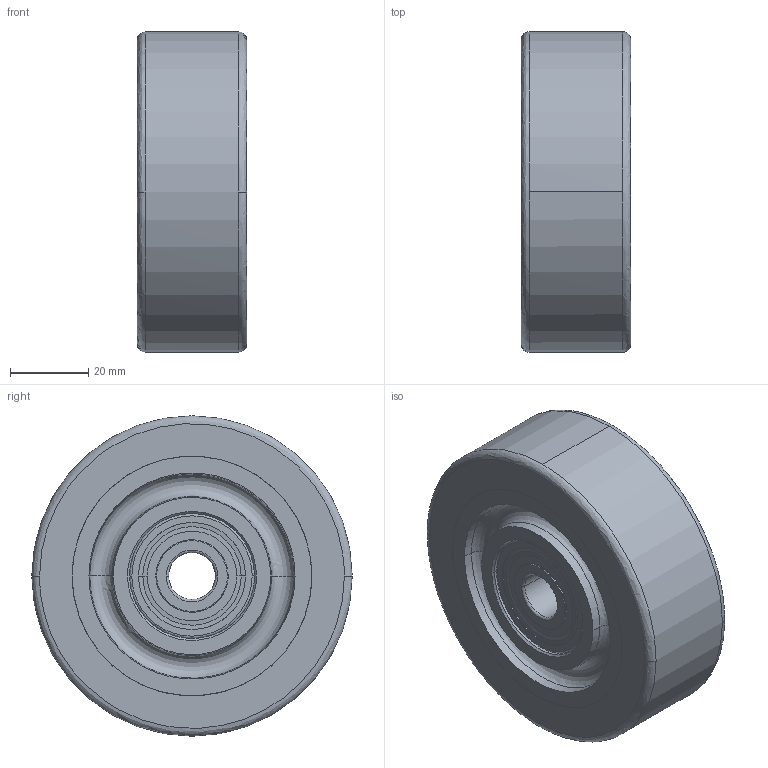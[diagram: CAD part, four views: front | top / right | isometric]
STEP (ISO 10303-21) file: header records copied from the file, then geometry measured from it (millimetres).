
FILE_DESCRIPTION (( 'STEP AP203' ), '1' );
FILE_NAME ('7002-cc.STEP', '2010-04-14T07:51:56', ( 'Utente' ), ( 'User' ), 'SwSTEP 2.0', 'SolidWorks 2008', '' );
FILE_SCHEMA (( 'CONFIG_CONTROL_DESIGN' ));
Length unit declared in the file: millimetre
Products named in the file (1): 7002-cc
Bounding box: 28 x 82 x 82 mm (x, y, z)
Surface area: 23117.8 mm2 (no closed solid volume)
Topology: 0 solids, 9 shells, 80 faces, 190 edges, 122 vertices
Faces by surface type: bspline 50, cylinder 18, plane 12
Entity records: 15522 total; most frequent: CARTESIAN_POINT 14068, ORIENTED_EDGE 342, EDGE_CURVE 190, B_SPLINE_CURVE_WITH_KNOTS 156, VERTEX_POINT 122, DIRECTION 112, EDGE_LOOP 92, FACE_OUTER_BOUND 80
